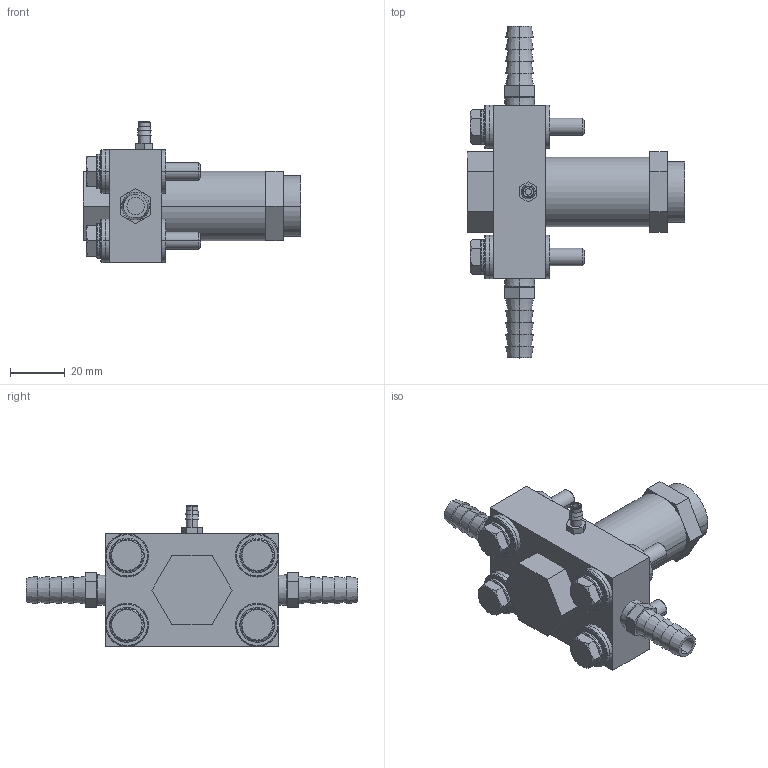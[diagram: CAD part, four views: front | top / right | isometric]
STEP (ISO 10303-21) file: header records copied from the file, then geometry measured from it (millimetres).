
FILE_DESCRIPTION((''),'2;1');
FILE_NAME('UK2_ASM','2017-08-24T',('jennifer.elliott'),('CenterLine (Windsor) Ltd - Automation Components Division'),'PRO/ENGINEER BY PARAMETRIC TECHNOLOGY CORPORATION, 2015030','PRO/ENGINEER BY PARAMETRIC TECHNOLOGY CORPORATION, 2015030','');
FILE_SCHEMA(('AUTOMOTIVE_DESIGN { 1 0 10303 214 1 1 1 1 }'));
Length unit declared in the file: inch
Products named in the file (30): PRT0445; PRT0446; PRT0447; PRT0448; PRT0449; PRT0450; PRT0451; PRT0452; PRT0453; PRT0454; PRT0455; PRT0456; PRT0457; PRT0458; ASM0002_ASM; PRT0459; PRT0460; PRT0461; PRT0462; PRT0463; PRT0464; PRT0465; PRT0466; PRT0467; PRT0468; PRT0469; TMP_DWG-3DSOLID_58; TMP_DWG-3DSOLID_59; TMP_DWG-3DSOLID_60; UK2_ASM
Assembly tree (29 placements, depth 3):
  UK2_ASM
    PRT0445
    PRT0446
    PRT0447
    PRT0448
    PRT0449
    PRT0450
    PRT0451
    PRT0452
    PRT0453
    PRT0454
    ASM0002_ASM
      PRT0455
      PRT0456
      PRT0457
      PRT0458
    PRT0459
    PRT0460
    PRT0461
    PRT0462
    PRT0463
    PRT0464
    PRT0465
    PRT0466
    PRT0467
    PRT0468
    PRT0469
    TMP_DWG-3DSOLID_58
    TMP_DWG-3DSOLID_59
    TMP_DWG-3DSOLID_60
Bounding box: 79.38 x 121.41 x 51.59 mm (x, y, z)
Volume: 91423.3 mm3; surface area: 37431.8 mm2
Topology: 28 solids, 28 shells, 321 faces, 706 edges, 462 vertices
Faces by surface type: plane 147, cylinder 86, cone 60, torus 28
Entity records: 11184 total; most frequent: CARTESIAN_POINT 2089, DIRECTION 1720, ORIENTED_EDGE 1412, AXIS2_PLACEMENT_3D 718, EDGE_CURVE 706, VERTEX_POINT 462, EDGE_LOOP 372, CIRCLE 334
